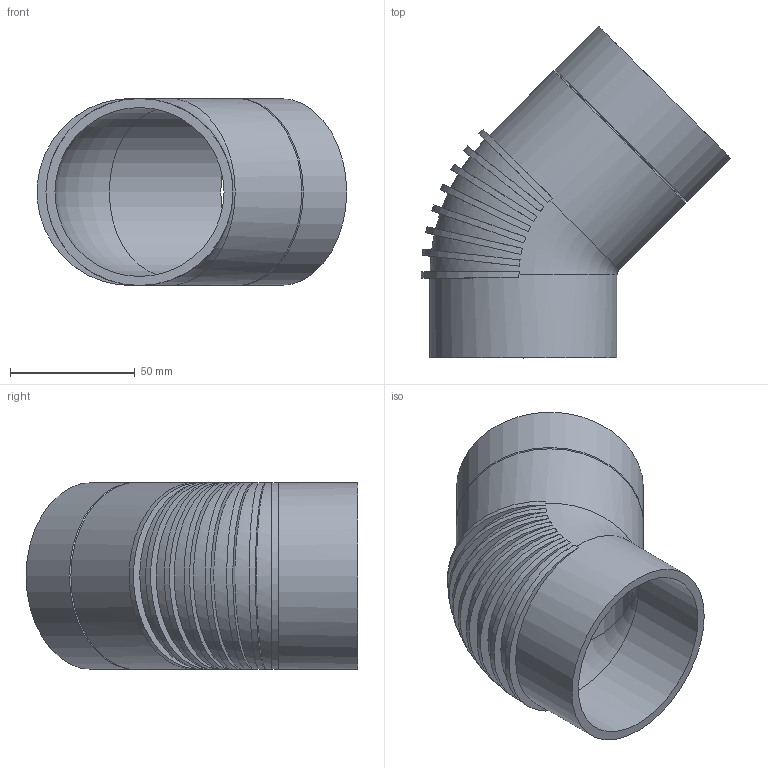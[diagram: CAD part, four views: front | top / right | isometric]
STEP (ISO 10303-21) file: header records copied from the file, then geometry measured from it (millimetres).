
FILE_DESCRIPTION(/* description */ (''),/* implementation_level */ '2;1');
FILE_NAME(/* name */ 'Z:\Geberit\Export\NewStep\Bogen_Ipart\stp\307450.stp',/* time_stamp */ '2014-04-03T16:42:44+02:00',/* author */ ('Marco'),/* organization */ (''),/* preprocessor_version */ 'ST-DEVELOPER v15.2',/* originating_system */ 'Autodesk Inventor 2014',/* authorisation */ '');
FILE_SCHEMA (('AUTOMOTIVE_DESIGN { 1 0 10303 214 3 1 1 }'));
Length unit declared in the file: millimetre
Products named in the file (1): 307450
Bounding box: 124.05 x 133.09 x 75 mm (x, y, z)
Volume: 108945.6 mm3; surface area: 63828.5 mm2
Topology: 1 solids, 1 shells, 35 faces, 96 edges, 63 vertices
Faces by surface type: plane 18, cylinder 13, cone 2, torus 2
Full cylindrical faces by diameter (mm): 67.8 x2, 75 x3
Entity records: 1508 total; most frequent: CARTESIAN_POINT 704, ORIENTED_EDGE 154, DIRECTION 134, EDGE_CURVE 77, AXIS2_PLACEMENT_3D 65, VERTEX_POINT 59, EDGE_LOOP 52, B_SPLINE_CURVE_WITH_KNOTS 44
